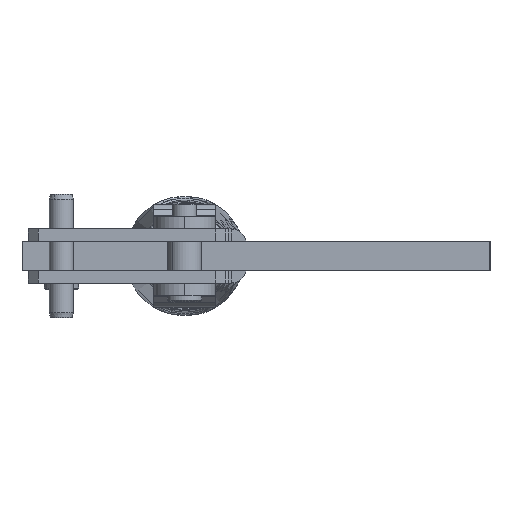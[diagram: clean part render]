
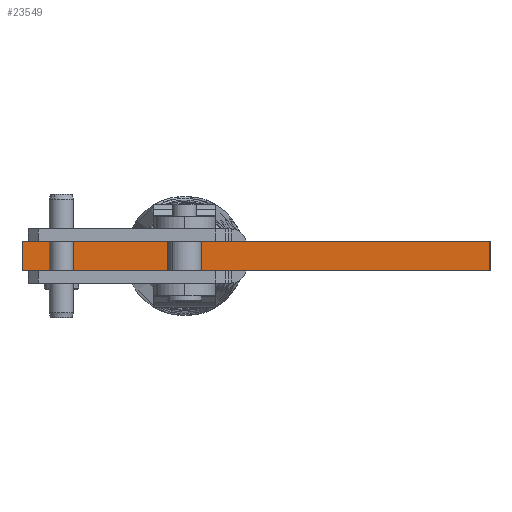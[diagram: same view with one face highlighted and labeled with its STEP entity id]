
A CAD part, front view. The second image highlights one B-rep face of the part: STEP entity #23549.
In plain terms, the highlighted planar face has unit normal (-0.001, -1, 0).
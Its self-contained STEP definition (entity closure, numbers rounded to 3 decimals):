
#610 = CARTESIAN_POINT ( 'NONE',  ( 0., -35., 12. ) ) ;
#642 = DIRECTION ( 'NONE',  ( 0., 0., -1. ) ) ;
#769 = CARTESIAN_POINT ( 'NONE',  ( 190., -35., 12. ) ) ;
#795 = EDGE_CURVE ( 'NONE', #11423, #13603, #26129, .T. ) ;
#1176 = CARTESIAN_POINT ( 'NONE',  ( 0., -35., 0. ) ) ;
#1504 = VERTEX_POINT ( 'NONE', #610 ) ;
#2125 = EDGE_LOOP ( 'NONE', ( #24855, #4761, #16045, #10250 ) ) ;
#4202 = LINE ( 'NONE', #6557, #8373 ) ;
#4344 = DIRECTION ( 'NONE',  ( -1., 0., 0. ) ) ;
#4664 = DIRECTION ( 'NONE',  ( -1., 0., 0. ) ) ;
#4761 = ORIENTED_EDGE ( 'NONE', *, *, #795, .F. ) ;
#6557 = CARTESIAN_POINT ( 'NONE',  ( 190., -35., 0. ) ) ;
#7358 = CARTESIAN_POINT ( 'NONE',  ( 190., -35., 12. ) ) ;
#7883 = AXIS2_PLACEMENT_3D ( 'NONE', #769, #12779, #642 ) ;
#8283 = CARTESIAN_POINT ( 'NONE',  ( 0., -35., 12. ) ) ;
#8326 = EDGE_CURVE ( 'NONE', #11423, #1504, #11008, .T. ) ;
#8373 = VECTOR ( 'NONE', #4344, 1000. ) ;
#9039 = PLANE ( 'NONE',  #7883 ) ;
#10250 = ORIENTED_EDGE ( 'NONE', *, *, #24870, .T. ) ;
#10445 = FACE_OUTER_BOUND ( 'NONE', #2125, .T. ) ;
#11008 = LINE ( 'NONE', #15422, #26249 ) ;
#11400 = VECTOR ( 'NONE', #22256, 1000. ) ;
#11423 = VERTEX_POINT ( 'NONE', #19882 ) ;
#12779 = DIRECTION ( 'NONE',  ( 0., -1., 0. ) ) ;
#13603 = VERTEX_POINT ( 'NONE', #16869 ) ;
#15422 = CARTESIAN_POINT ( 'NONE',  ( 190., -35., 12. ) ) ;
#16045 = ORIENTED_EDGE ( 'NONE', *, *, #8326, .T. ) ;
#16560 = DIRECTION ( 'NONE',  ( 0., 0., -1. ) ) ;
#16869 = CARTESIAN_POINT ( 'NONE',  ( 190., -35., 0. ) ) ;
#19882 = CARTESIAN_POINT ( 'NONE',  ( 190., -35., 12. ) ) ;
#22256 = DIRECTION ( 'NONE',  ( 0., 0., -1. ) ) ;
#23549 = ADVANCED_FACE ( 'NONE', ( #10445 ), #9039, .T. ) ;
#23787 = VERTEX_POINT ( 'NONE', #1176 ) ;
#24855 = ORIENTED_EDGE ( 'NONE', *, *, #25570, .F. ) ;
#24870 = EDGE_CURVE ( 'NONE', #1504, #23787, #25254, .T. ) ;
#25117 = VECTOR ( 'NONE', #16560, 1000. ) ;
#25254 = LINE ( 'NONE', #8283, #25117 ) ;
#25570 = EDGE_CURVE ( 'NONE', #13603, #23787, #4202, .T. ) ;
#26129 = LINE ( 'NONE', #7358, #11400 ) ;
#26249 = VECTOR ( 'NONE', #4664, 1000. ) ;
